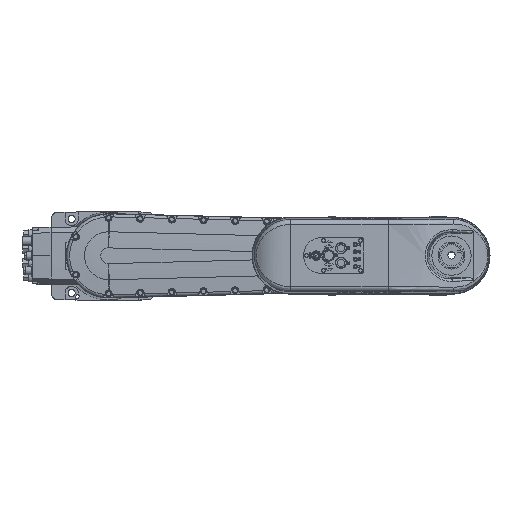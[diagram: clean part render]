
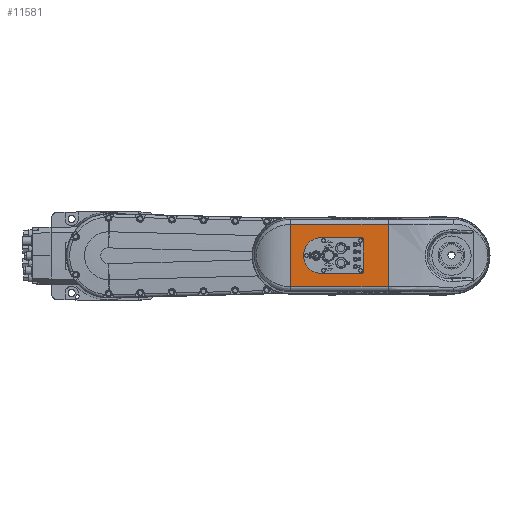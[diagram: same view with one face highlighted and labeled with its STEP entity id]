
A CAD part, top view. The second image highlights one B-rep face of the part: STEP entity #11581.
In plain terms, the highlighted planar face has unit normal (0, 0, 1).
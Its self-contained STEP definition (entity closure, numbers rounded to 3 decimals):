
#4049 = EDGE_CURVE ( 'NONE', #81665, #49785, #13960, .T. ) ;
#4972 = CARTESIAN_POINT ( 'NONE',  ( 530., -59.156, 457.7 ) ) ;
#5502 = EDGE_LOOP ( 'NONE', ( #56720, #70701, #40364, #7289, #7235, #84784 ) ) ;
#6618 = DIRECTION ( 'NONE',  ( -1., 0., 0. ) ) ;
#7235 = ORIENTED_EDGE ( 'NONE', *, *, #39400, .F. ) ;
#7237 = CARTESIAN_POINT ( 'NONE',  ( 482.5, 34., 457.7 ) ) ;
#7289 = ORIENTED_EDGE ( 'NONE', *, *, #72713, .T. ) ;
#11581 = ADVANCED_FACE ( 'NONE', ( #91275, #57125 ), #66581, .T. ) ;
#12913 = EDGE_CURVE ( 'NONE', #17723, #64112, #32296, .T. ) ;
#13569 = VECTOR ( 'NONE', #50985, 1000. ) ;
#13960 = LINE ( 'NONE', #82120, #17276 ) ;
#15680 = VERTEX_POINT ( 'NONE', #58486 ) ;
#16287 = CARTESIAN_POINT ( 'NONE',  ( 482.5, -32.001, 457.7 ) ) ;
#16595 = CARTESIAN_POINT ( 'NONE',  ( 481.672, -34., 457.7 ) ) ;
#17276 = VECTOR ( 'NONE', #90067, 1000. ) ;
#17723 = VERTEX_POINT ( 'NONE', #55604 ) ;
#18058 = CARTESIAN_POINT ( 'NONE',  ( 482.5, 32.001, 457.7 ) ) ;
#20400 = CARTESIAN_POINT ( 'NONE',  ( 403.5, 0., 457.7 ) ) ;
#21368 = AXIS2_PLACEMENT_3D ( 'NONE', #59177, #44146, #51202 ) ;
#22384 = CARTESIAN_POINT ( 'NONE',  ( 345., -59.156, 457.7 ) ) ;
#26326 =( BOUNDED_CURVE ( )  B_SPLINE_CURVE ( 3, ( #16287, #51656, #16595, #65503 ),
 .UNSPECIFIED., .F., .F. ) 
 B_SPLINE_CURVE_WITH_KNOTS ( ( 4, 4 ),
 ( 2.357, 3.927 ),
 .UNSPECIFIED. ) 
 CURVE ( )  GEOMETRIC_REPRESENTATION_ITEM ( )  RATIONAL_B_SPLINE_CURVE ( ( 1., 0.805, 0.805, 1. ) ) 
 REPRESENTATION_ITEM ( '' )  );
#27795 = DIRECTION ( 'NONE',  ( 1., 0., 0. ) ) ;
#28288 = LINE ( 'NONE', #7237, #84453 ) ;
#28930 = ORIENTED_EDGE ( 'NONE', *, *, #4049, .F. ) ;
#29101 = EDGE_CURVE ( 'NONE', #17723, #80026, #28288, .T. ) ;
#30169 = CARTESIAN_POINT ( 'NONE',  ( 403.5, -34., 457.7 ) ) ;
#32001 = EDGE_LOOP ( 'NONE', ( #45752, #44448, #28930, #62448 ) ) ;
#32296 =( BOUNDED_CURVE ( )  B_SPLINE_CURVE ( 3, ( #60497, #75264, #46967, #18058 ),
 .UNSPECIFIED., .F., .F. ) 
 B_SPLINE_CURVE_WITH_KNOTS ( ( 4, 4 ),
 ( 2.357, 3.927 ),
 .UNSPECIFIED. ) 
 CURVE ( )  GEOMETRIC_REPRESENTATION_ITEM ( )  RATIONAL_B_SPLINE_CURVE ( ( 1., 0.805, 0.805, 1. ) ) 
 REPRESENTATION_ITEM ( '' )  );
#34497 = VECTOR ( 'NONE', #90161, 1000. ) ;
#34598 = CARTESIAN_POINT ( 'NONE',  ( 530., 59.156, 457.7 ) ) ;
#39400 = EDGE_CURVE ( 'NONE', #79416, #15680, #88740, .T. ) ;
#40364 = ORIENTED_EDGE ( 'NONE', *, *, #87616, .F. ) ;
#40719 = DIRECTION ( 'NONE',  ( 0., 0., 1. ) ) ;
#41024 = DIRECTION ( 'NONE',  ( 0., 1., 0. ) ) ;
#41621 = CARTESIAN_POINT ( 'NONE',  ( 482.5, 34., 457.7 ) ) ;
#42141 = EDGE_CURVE ( 'NONE', #62709, #49785, #71915, .T. ) ;
#43654 = VECTOR ( 'NONE', #78771, 1000. ) ;
#43928 = CARTESIAN_POINT ( 'NONE',  ( 530., -705.455, 457.7 ) ) ;
#44146 = DIRECTION ( 'NONE',  ( 0., 0., 1. ) ) ;
#44448 = ORIENTED_EDGE ( 'NONE', *, *, #42141, .T. ) ;
#45752 = ORIENTED_EDGE ( 'NONE', *, *, #55247, .T. ) ;
#46967 = CARTESIAN_POINT ( 'NONE',  ( 482.5, 33.172, 457.7 ) ) ;
#49785 = VERTEX_POINT ( 'NONE', #56490 ) ;
#50985 = DIRECTION ( 'NONE',  ( 0., 1., 0. ) ) ;
#51202 = DIRECTION ( 'NONE',  ( 0., -1., 0. ) ) ;
#51307 = CARTESIAN_POINT ( 'NONE',  ( 530., -59.156, 457.7 ) ) ;
#51656 = CARTESIAN_POINT ( 'NONE',  ( 482.5, -33.172, 457.7 ) ) ;
#53766 = VERTEX_POINT ( 'NONE', #65130 ) ;
#55247 = EDGE_CURVE ( 'NONE', #80550, #62709, #89643, .T. ) ;
#55604 = CARTESIAN_POINT ( 'NONE',  ( 480.501, 34., 457.7 ) ) ;
#56490 = CARTESIAN_POINT ( 'NONE',  ( 345., 59.156, 457.7 ) ) ;
#56720 = ORIENTED_EDGE ( 'NONE', *, *, #29101, .F. ) ;
#57125 = FACE_BOUND ( 'NONE', #5502, .T. ) ;
#57446 = CIRCLE ( 'NONE', #69670, 34. ) ;
#58486 = CARTESIAN_POINT ( 'NONE',  ( 480.501, -34., 457.7 ) ) ;
#59177 = CARTESIAN_POINT ( 'NONE',  ( 345., 0., 457.7 ) ) ;
#60497 = CARTESIAN_POINT ( 'NONE',  ( 480.501, 34., 457.7 ) ) ;
#62265 = DIRECTION ( 'NONE',  ( 0., 1., 0. ) ) ;
#62448 = ORIENTED_EDGE ( 'NONE', *, *, #62871, .T. ) ;
#62706 = EDGE_CURVE ( 'NONE', #80026, #79416, #57446, .T. ) ;
#62709 = VERTEX_POINT ( 'NONE', #34598 ) ;
#62871 = EDGE_CURVE ( 'NONE', #81665, #80550, #83883, .T. ) ;
#64094 = VECTOR ( 'NONE', #27795, 1000. ) ;
#64112 = VERTEX_POINT ( 'NONE', #65695 ) ;
#65130 = CARTESIAN_POINT ( 'NONE',  ( 482.5, -32.001, 457.7 ) ) ;
#65503 = CARTESIAN_POINT ( 'NONE',  ( 480.501, -34., 457.7 ) ) ;
#65695 = CARTESIAN_POINT ( 'NONE',  ( 482.5, 32.001, 457.7 ) ) ;
#66581 = PLANE ( 'NONE',  #21368 ) ;
#66655 = CARTESIAN_POINT ( 'NONE',  ( 403.5, 34., 457.7 ) ) ;
#68965 = CARTESIAN_POINT ( 'NONE',  ( 345., 59.156, 457.7 ) ) ;
#69670 = AXIS2_PLACEMENT_3D ( 'NONE', #20400, #40719, #62265 ) ;
#70701 = ORIENTED_EDGE ( 'NONE', *, *, #12913, .T. ) ;
#71915 = LINE ( 'NONE', #68965, #34497 ) ;
#72280 = CARTESIAN_POINT ( 'NONE',  ( 482.5, -34., 457.7 ) ) ;
#72713 = EDGE_CURVE ( 'NONE', #53766, #15680, #26326, .T. ) ;
#75264 = CARTESIAN_POINT ( 'NONE',  ( 481.672, 34., 457.7 ) ) ;
#78771 = DIRECTION ( 'NONE',  ( 1., 0., 0. ) ) ;
#79416 = VERTEX_POINT ( 'NONE', #30169 ) ;
#80026 = VERTEX_POINT ( 'NONE', #66655 ) ;
#80550 = VERTEX_POINT ( 'NONE', #51307 ) ;
#81555 = LINE ( 'NONE', #41621, #84799 ) ;
#81665 = VERTEX_POINT ( 'NONE', #22384 ) ;
#82120 = CARTESIAN_POINT ( 'NONE',  ( 345., -705.242, 457.7 ) ) ;
#83883 = LINE ( 'NONE', #4972, #64094 ) ;
#84453 = VECTOR ( 'NONE', #6618, 1000. ) ;
#84784 = ORIENTED_EDGE ( 'NONE', *, *, #62706, .F. ) ;
#84799 = VECTOR ( 'NONE', #41024, 1000. ) ;
#87616 = EDGE_CURVE ( 'NONE', #53766, #64112, #81555, .T. ) ;
#88740 = LINE ( 'NONE', #72280, #43654 ) ;
#89643 = LINE ( 'NONE', #43928, #13569 ) ;
#90067 = DIRECTION ( 'NONE',  ( 0., 1., 0. ) ) ;
#90161 = DIRECTION ( 'NONE',  ( -1., 0., 0. ) ) ;
#91275 = FACE_OUTER_BOUND ( 'NONE', #32001, .T. ) ;
